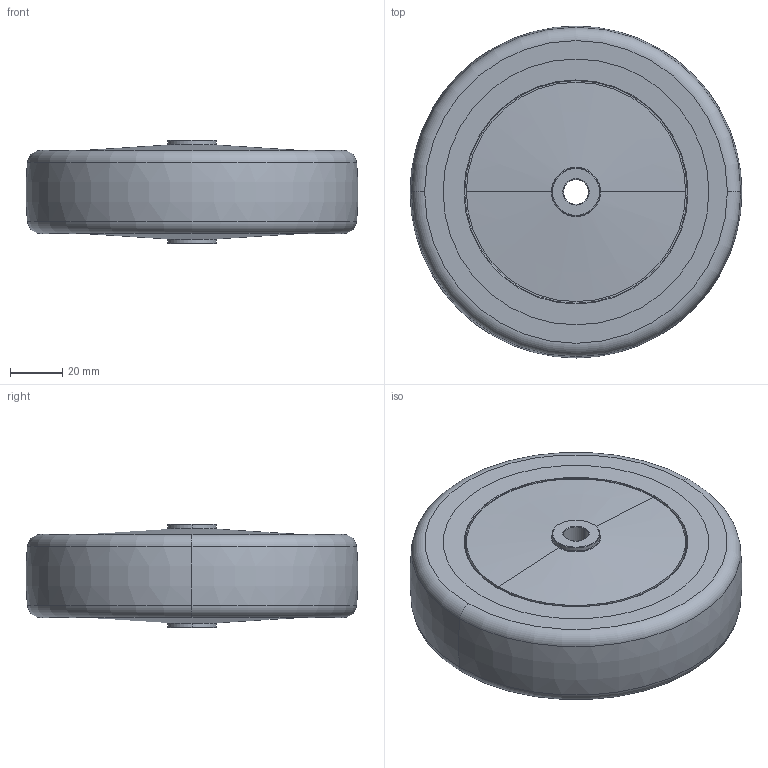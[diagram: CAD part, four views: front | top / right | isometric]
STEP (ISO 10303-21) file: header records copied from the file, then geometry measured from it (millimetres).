
FILE_DESCRIPTION (( 'STEP AP214' ), '1' );
FILE_NAME ('SCC-PPUB514-MRN 3D STEP.STEP', '2023-03-03T16:03:16', ( '' ), ( '' ), 'SwSTEP 2.0', 'SolidWorks 2016', '' );
FILE_SCHEMA (( 'AUTOMOTIVE_DESIGN' ));
Length unit declared in the file: inch
Products named in the file (1): SCC-PPUB514-MRN 3D STEP
Bounding box: 126.87 x 126.87 x 39.69 mm (x, y, z)
Volume: 468791.3 mm3; surface area: 62632.7 mm2
Topology: 2 solids, 2 shells, 52 faces, 104 edges, 60 vertices
Faces by surface type: torus 22, cylinder 18, plane 8, cone 4
Entity records: 1529 total; most frequent: DIRECTION 292, CARTESIAN_POINT 217, ORIENTED_EDGE 208, AXIS2_PLACEMENT_3D 135, EDGE_CURVE 104, CIRCLE 82, EDGE_LOOP 60, VERTEX_POINT 60
